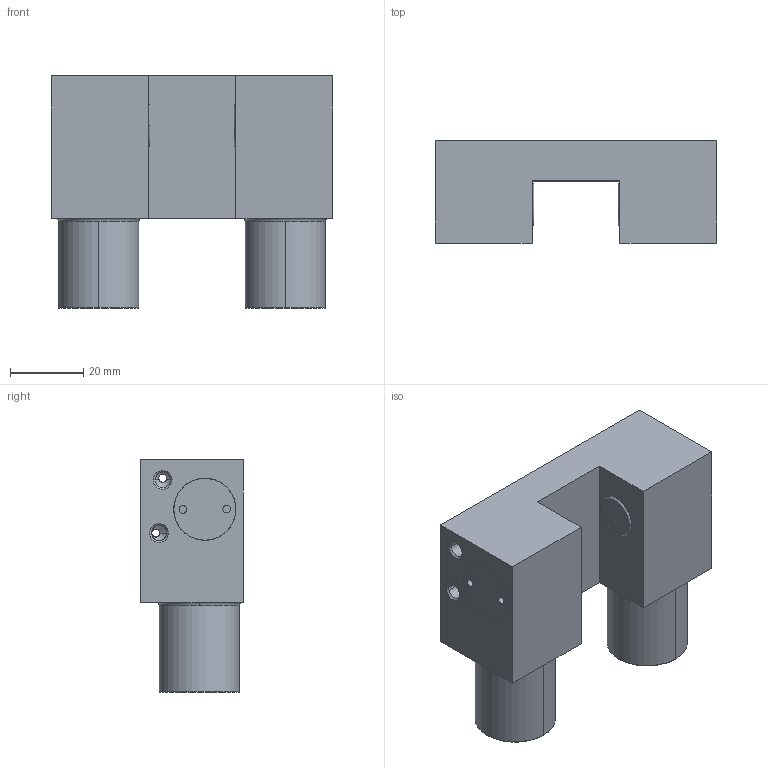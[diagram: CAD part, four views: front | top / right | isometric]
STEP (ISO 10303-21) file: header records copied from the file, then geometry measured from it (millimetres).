
FILE_DESCRIPTION((''),'2;1');
FILE_NAME('FRC25T02SEM-DEM_SW0001','2017-11-15T11:23:37',('anacleto.m'),(''),'CREO PARAMETRIC BY PTC INC, 2016510','CREO PARAMETRIC BY PTC INC, 2016510','');
FILE_SCHEMA(('CONFIG_CONTROL_DESIGN'));
Length unit declared in the file: millimetre
Products named in the file (1): FRC25T02SEM-DEM_SW0001
Bounding box: 77 x 28 x 63.5 mm (x, y, z)
Volume: 50762.2 mm3; surface area: 28408.5 mm2
Topology: 1 solids, 1 shells, 320 faces, 758 edges, 458 vertices
Faces by surface type: cylinder 136, plane 82, cone 58, torus 28, bspline 12, sphere 4
Entity records: 10874 total; most frequent: CARTESIAN_POINT 3420, DIRECTION 1650, ORIENTED_EDGE 1492, EDGE_CURVE 746, AXIS2_PLACEMENT_3D 678, VERTEX_POINT 458, CIRCLE 370, EDGE_LOOP 358
